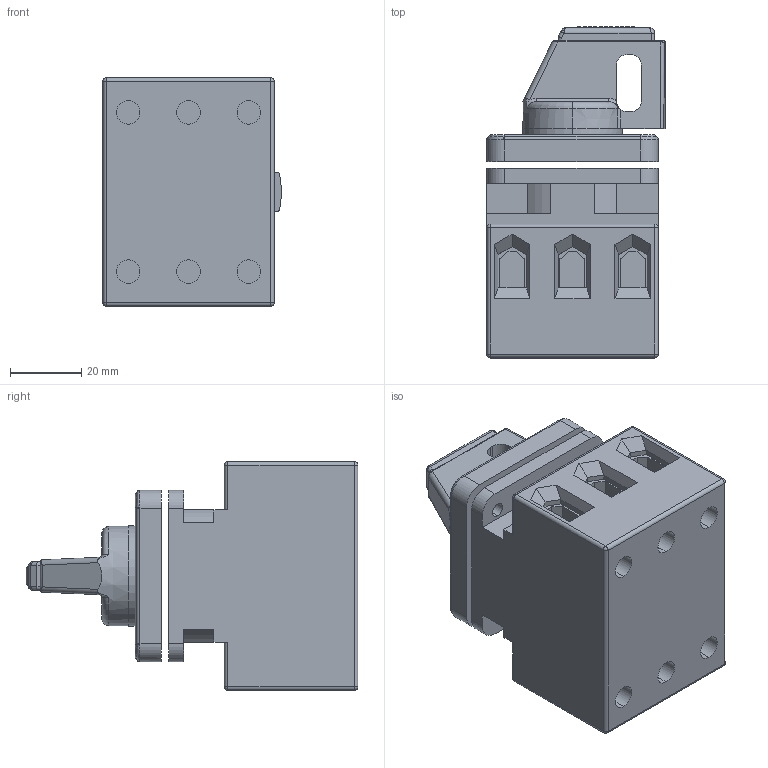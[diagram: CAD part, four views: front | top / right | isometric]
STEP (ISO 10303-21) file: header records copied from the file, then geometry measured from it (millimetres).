
FILE_DESCRIPTION (( 'STEP AP203' ), '1' );
FILE_NAME ('LTS63_80 EH1.STEP', '2012-10-11T05:38:35', ( 'schulung' ), ( 'Microsoft' ), 'SwSTEP 2.0', 'SolidWorks 2012', '' );
FILE_SCHEMA (( 'CONFIG_CONTROL_DESIGN' ));
Length unit declared in the file: millimetre
Products named in the file (3): LTS63_80 EH1; Dummie Griff E SV1; Schalterkörper LTS63_80 E
Assembly tree (2 placements, depth 2):
  LTS63_80 EH1
    Schalterkörper LTS63_80 E
    Dummie Griff E SV1
Bounding box: 49.97 x 92.9 x 64 mm (x, y, z)
Volume: 161633.8 mm3; surface area: 31720.4 mm2
Topology: 2 solids, 2 shells, 333 faces, 816 edges, 499 vertices
Faces by surface type: plane 187, cylinder 93, bspline 34, sphere 8, torus 8, cone 3
Entity records: 10768 total; most frequent: CARTESIAN_POINT 2880, ORIENTED_EDGE 1604, DIRECTION 1522, EDGE_CURVE 802, LINE 528, VECTOR 528, VERTEX_POINT 499, AXIS2_PLACEMENT_3D 497
